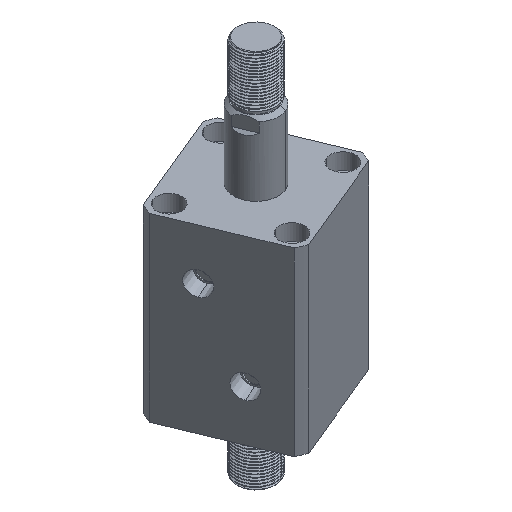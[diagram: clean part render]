
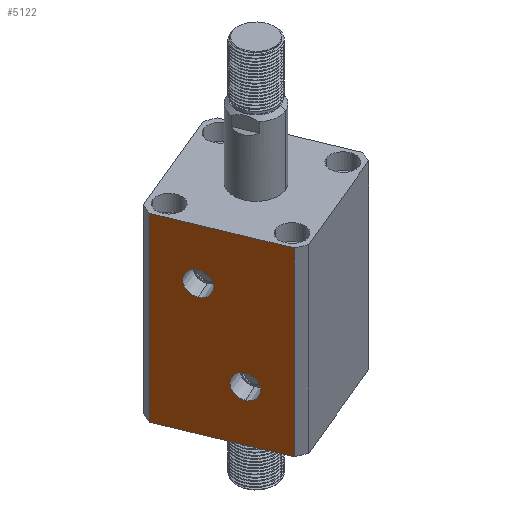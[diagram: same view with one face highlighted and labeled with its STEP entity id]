
A CAD part, isometric view. The second image highlights one B-rep face of the part: STEP entity #5122.
In plain terms, the highlighted planar face has unit normal (-0.924, -0.383, 0) as drawn and (0, 1, 0) by its records, which use the part's own axes.
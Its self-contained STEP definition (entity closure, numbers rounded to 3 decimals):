
#317 = EDGE_CURVE ( 'NONE', #8633, #17411, #4128, .T. ) ;
#461 = VECTOR ( 'NONE', #15632, 1000. ) ;
#521 = AXIS2_PLACEMENT_3D ( 'NONE', #4659, #14159, #6066 ) ;
#588 = VERTEX_POINT ( 'NONE', #12430 ) ;
#813 = CARTESIAN_POINT ( 'NONE',  ( -10., 35., 34.532 ) ) ;
#1100 = EDGE_CURVE ( 'NONE', #588, #15487, #7747, .T. ) ;
#1111 = VERTEX_POINT ( 'NONE', #12360 ) ;
#1291 = CARTESIAN_POINT ( 'NONE',  ( 10., 35., 72. ) ) ;
#1598 = CARTESIAN_POINT ( 'NONE',  ( 10., 35., 65.468 ) ) ;
#1775 = DIRECTION ( 'NONE',  ( 0., 0., 1. ) ) ;
#1802 = ORIENTED_EDGE ( 'NONE', *, *, #15445, .F. ) ;
#2009 = CARTESIAN_POINT ( 'NONE',  ( 30.615, 35., 0. ) ) ;
#2550 = ORIENTED_EDGE ( 'NONE', *, *, #1100, .F. ) ;
#2676 = DIRECTION ( 'NONE',  ( 0., 0., 1. ) ) ;
#3263 = CARTESIAN_POINT ( 'NONE',  ( -30.615, 35., 100. ) ) ;
#3732 = FACE_OUTER_BOUND ( 'NONE', #15952, .T. ) ;
#3817 = AXIS2_PLACEMENT_3D ( 'NONE', #3935, #13438, #5310 ) ;
#3935 = CARTESIAN_POINT ( 'NONE',  ( -35., 35., 100. ) ) ;
#4128 = LINE ( 'NONE', #15757, #461 ) ;
#4271 = ORIENTED_EDGE ( 'NONE', *, *, #8817, .T. ) ;
#4505 = CIRCLE ( 'NONE', #6843, 6.532 ) ;
#4659 = CARTESIAN_POINT ( 'NONE',  ( -10., 35., 28. ) ) ;
#5122 = ADVANCED_FACE ( 'NONE', ( #10611, #13724, #3732 ), #12093, .F. ) ;
#5310 = DIRECTION ( 'NONE',  ( 0., 0., -1. ) ) ;
#5788 = VECTOR ( 'NONE', #1775, 1000. ) ;
#6066 = DIRECTION ( 'NONE',  ( 0., 0., 1. ) ) ;
#6219 = LINE ( 'NONE', #7228, #5788 ) ;
#6268 = DIRECTION ( 'NONE',  ( -1., 0., 0. ) ) ;
#6406 = CARTESIAN_POINT ( 'NONE',  ( 30.615, 35., 100. ) ) ;
#6843 = AXIS2_PLACEMENT_3D ( 'NONE', #8212, #17570, #9576 ) ;
#7228 = CARTESIAN_POINT ( 'NONE',  ( 30.615, 35., -200. ) ) ;
#7544 = CARTESIAN_POINT ( 'NONE',  ( -30.615, 35., 0. ) ) ;
#7640 = CARTESIAN_POINT ( 'NONE',  ( -35., 35., 0. ) ) ;
#7667 = DIRECTION ( 'NONE',  ( -1., 0., 0. ) ) ;
#7711 = VECTOR ( 'NONE', #6268, 1000. ) ;
#7747 = CIRCLE ( 'NONE', #14796, 6.532 ) ;
#7758 = AXIS2_PLACEMENT_3D ( 'NONE', #1291, #10889, #2676 ) ;
#8212 = CARTESIAN_POINT ( 'NONE',  ( 10., 35., 72. ) ) ;
#8282 = EDGE_CURVE ( 'NONE', #8509, #1111, #11771, .T. ) ;
#8336 = EDGE_CURVE ( 'NONE', #1111, #8509, #4505, .T. ) ;
#8509 = VERTEX_POINT ( 'NONE', #1598 ) ;
#8575 = EDGE_CURVE ( 'NONE', #16177, #15533, #6219, .T. ) ;
#8633 = VERTEX_POINT ( 'NONE', #3263 ) ;
#8817 = EDGE_CURVE ( 'NONE', #16177, #17411, #17582, .T. ) ;
#8995 = ORIENTED_EDGE ( 'NONE', *, *, #9400, .F. ) ;
#9400 = EDGE_CURVE ( 'NONE', #15487, #588, #14851, .T. ) ;
#9436 = EDGE_LOOP ( 'NONE', ( #9843, #13815 ) ) ;
#9576 = DIRECTION ( 'NONE',  ( 0., 0., 1. ) ) ;
#9843 = ORIENTED_EDGE ( 'NONE', *, *, #8336, .F. ) ;
#10611 = FACE_BOUND ( 'NONE', #14361, .T. ) ;
#10889 = DIRECTION ( 'NONE',  ( 0., 1., 0. ) ) ;
#11771 = CIRCLE ( 'NONE', #7758, 6.532 ) ;
#11838 = ORIENTED_EDGE ( 'NONE', *, *, #317, .F. ) ;
#11968 = DIRECTION ( 'NONE',  ( 0., 0., 1. ) ) ;
#12016 = DIRECTION ( 'NONE',  ( 0., 1., 0. ) ) ;
#12070 = CARTESIAN_POINT ( 'NONE',  ( -10., 35., 28. ) ) ;
#12093 = PLANE ( 'NONE',  #3817 ) ;
#12360 = CARTESIAN_POINT ( 'NONE',  ( 10., 35., 78.532 ) ) ;
#12430 = CARTESIAN_POINT ( 'NONE',  ( -10., 35., 21.468 ) ) ;
#12978 = CARTESIAN_POINT ( 'NONE',  ( -35., 35., 100. ) ) ;
#13438 = DIRECTION ( 'NONE',  ( 0., -1., 0. ) ) ;
#13724 = FACE_BOUND ( 'NONE', #9436, .T. ) ;
#13815 = ORIENTED_EDGE ( 'NONE', *, *, #8282, .F. ) ;
#14159 = DIRECTION ( 'NONE',  ( 0., 1., 0. ) ) ;
#14235 = ORIENTED_EDGE ( 'NONE', *, *, #8575, .F. ) ;
#14361 = EDGE_LOOP ( 'NONE', ( #8995, #2550 ) ) ;
#14627 = VECTOR ( 'NONE', #7667, 1000. ) ;
#14796 = AXIS2_PLACEMENT_3D ( 'NONE', #12070, #12016, #11968 ) ;
#14851 = CIRCLE ( 'NONE', #521, 6.532 ) ;
#15041 = LINE ( 'NONE', #12978, #14627 ) ;
#15445 = EDGE_CURVE ( 'NONE', #15533, #8633, #15041, .T. ) ;
#15487 = VERTEX_POINT ( 'NONE', #813 ) ;
#15533 = VERTEX_POINT ( 'NONE', #6406 ) ;
#15632 = DIRECTION ( 'NONE',  ( 0., 0., -1. ) ) ;
#15757 = CARTESIAN_POINT ( 'NONE',  ( -30.615, 35., -200. ) ) ;
#15952 = EDGE_LOOP ( 'NONE', ( #14235, #4271, #11838, #1802 ) ) ;
#16177 = VERTEX_POINT ( 'NONE', #2009 ) ;
#17411 = VERTEX_POINT ( 'NONE', #7544 ) ;
#17570 = DIRECTION ( 'NONE',  ( 0., 1., 0. ) ) ;
#17582 = LINE ( 'NONE', #7640, #7711 ) ;
